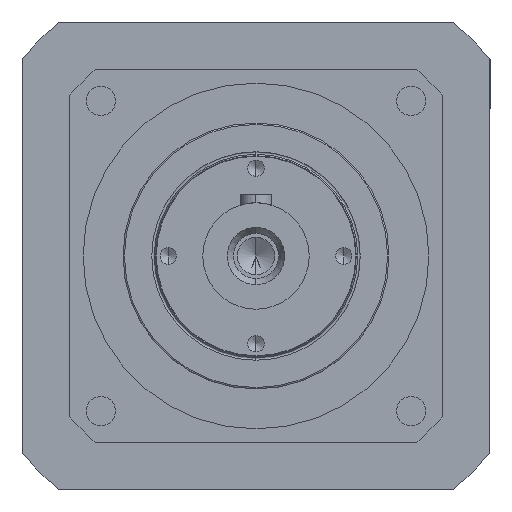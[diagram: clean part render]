
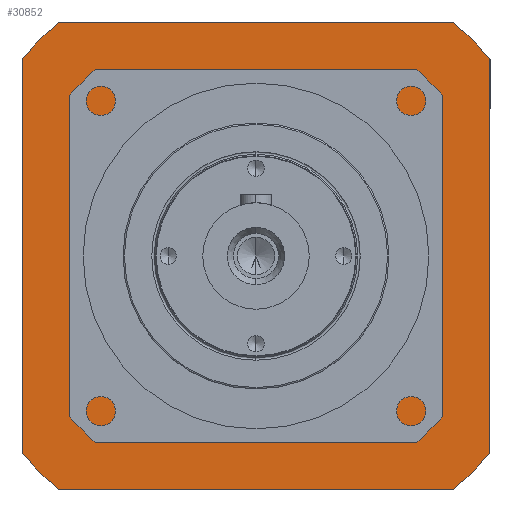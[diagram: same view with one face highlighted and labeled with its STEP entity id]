
A CAD part, left-side view. The second image highlights one B-rep face of the part: STEP entity #30852.
In plain terms, the highlighted planar face has unit normal (-1, 0, 0) as drawn and (0, 0, 1) by its records, which use the part's own axes.
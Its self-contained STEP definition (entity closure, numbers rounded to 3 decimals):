
#796 = EDGE_CURVE ( 'NONE', #4495, #8482, #36840, .T. ) ;
#1240 = CARTESIAN_POINT ( 'NONE',  ( -88., -74.034, 0. ) ) ;
#1440 = EDGE_CURVE ( 'NONE', #17463, #4495, #30435, .T. ) ;
#1542 = CARTESIAN_POINT ( 'NONE',  ( -88., 88., 0. ) ) ;
#1669 = DIRECTION ( 'NONE',  ( 1., 0., 0. ) ) ;
#1711 = DIRECTION ( 'NONE',  ( 1., 0., 0. ) ) ;
#2306 = AXIS2_PLACEMENT_3D ( 'NONE', #9361, #9408, #9414 ) ;
#2351 = ORIENTED_EDGE ( 'NONE', *, *, #35410, .F. ) ;
#2588 = FACE_OUTER_BOUND ( 'NONE', #27243, .T. ) ;
#2913 = ORIENTED_EDGE ( 'NONE', *, *, #33726, .F. ) ;
#4054 = AXIS2_PLACEMENT_3D ( 'NONE', #10859, #31132, #13726 ) ;
#4192 = CARTESIAN_POINT ( 'NONE',  ( -74.034, -88., 0. ) ) ;
#4483 = VERTEX_POINT ( 'NONE', #18195 ) ;
#4495 = VERTEX_POINT ( 'NONE', #17652 ) ;
#4687 = ORIENTED_EDGE ( 'NONE', *, *, #31452, .F. ) ;
#4786 = CARTESIAN_POINT ( 'NONE',  ( 62.5, 0., 0. ) ) ;
#5482 = CARTESIAN_POINT ( 'NONE',  ( 0., 62.5, 0. ) ) ;
#5804 = ORIENTED_EDGE ( 'NONE', *, *, #796, .F. ) ;
#6025 = ORIENTED_EDGE ( 'NONE', *, *, #30746, .F. ) ;
#6362 = VERTEX_POINT ( 'NONE', #7785 ) ;
#7163 = EDGE_CURVE ( 'NONE', #30533, #35933, #32029, .T. ) ;
#7785 = CARTESIAN_POINT ( 'NONE',  ( -74.034, 88., 0. ) ) ;
#7992 = LINE ( 'NONE', #28376, #29432 ) ;
#8467 = DIRECTION ( 'NONE',  ( 0., 0., -1. ) ) ;
#8482 = VERTEX_POINT ( 'NONE', #29095 ) ;
#8542 = AXIS2_PLACEMENT_3D ( 'NONE', #30752, #13348, #33590 ) ;
#9361 = CARTESIAN_POINT ( 'NONE',  ( 0., 0., 0. ) ) ;
#9371 = LINE ( 'NONE', #34863, #24955 ) ;
#9407 = FACE_BOUND ( 'NONE', #32652, .T. ) ;
#9408 = DIRECTION ( 'NONE',  ( 0., 0., -1. ) ) ;
#9414 = DIRECTION ( 'NONE',  ( 1., 0., 0. ) ) ;
#10859 = CARTESIAN_POINT ( 'NONE',  ( 0., 0., 0. ) ) ;
#11998 = VECTOR ( 'NONE', #1669, 1000. ) ;
#12343 = CARTESIAN_POINT ( 'NONE',  ( 0., 0., 0. ) ) ;
#12899 = LINE ( 'NONE', #1542, #11998 ) ;
#12945 = AXIS2_PLACEMENT_3D ( 'NONE', #33999, #33955, #33907 ) ;
#13348 = DIRECTION ( 'NONE',  ( 0., 0., -1. ) ) ;
#13726 = DIRECTION ( 'NONE',  ( 1., 0., 0. ) ) ;
#13878 = AXIS2_PLACEMENT_3D ( 'NONE', #5482, #8467, #28907 ) ;
#15195 = DIRECTION ( 'NONE',  ( 1., 0., 0. ) ) ;
#17289 = ORIENTED_EDGE ( 'NONE', *, *, #7163, .F. ) ;
#17463 = VERTEX_POINT ( 'NONE', #19614 ) ;
#17623 = DIRECTION ( 'NONE',  ( 0., 1., 0. ) ) ;
#17652 = CARTESIAN_POINT ( 'NONE',  ( 88., 74.034, 0. ) ) ;
#18195 = CARTESIAN_POINT ( 'NONE',  ( 74.034, -88., 0. ) ) ;
#19059 = CIRCLE ( 'NONE', #24194, 62.5 ) ;
#19122 = DIRECTION ( 'NONE',  ( 0., 0., 1. ) ) ;
#19397 = ORIENTED_EDGE ( 'NONE', *, *, #28653, .F. ) ;
#19532 = DIRECTION ( 'NONE',  ( -1., 0., 0. ) ) ;
#19614 = CARTESIAN_POINT ( 'NONE',  ( 74.034, 88., 0. ) ) ;
#21605 = ORIENTED_EDGE ( 'NONE', *, *, #1440, .F. ) ;
#21864 = CARTESIAN_POINT ( 'NONE',  ( 88., 88., 0. ) ) ;
#22043 = CARTESIAN_POINT ( 'NONE',  ( -88., 74.034, 0. ) ) ;
#22638 = DIRECTION ( 'NONE',  ( 0., -1., 0. ) ) ;
#23079 = VERTEX_POINT ( 'NONE', #22043 ) ;
#23080 = PLANE ( 'NONE',  #13878 ) ;
#24079 = VERTEX_POINT ( 'NONE', #4192 ) ;
#24194 = AXIS2_PLACEMENT_3D ( 'NONE', #36205, #19122, #1711 ) ;
#24510 = CARTESIAN_POINT ( 'NONE',  ( -62.5, 0., 0. ) ) ;
#24955 = VECTOR ( 'NONE', #17623, 1000. ) ;
#27243 = EDGE_LOOP ( 'NONE', ( #19397, #6025, #4687, #32686, #2351, #36511, #5804, #21605 ) ) ;
#27629 = AXIS2_PLACEMENT_3D ( 'NONE', #12343, #32606, #15195 ) ;
#28376 = CARTESIAN_POINT ( 'NONE',  ( -88., -88., 0. ) ) ;
#28653 = EDGE_CURVE ( 'NONE', #6362, #17463, #12899, .T. ) ;
#28907 = DIRECTION ( 'NONE',  ( -1., 0., 0. ) ) ;
#28963 = CIRCLE ( 'NONE', #8542, 115. ) ;
#29095 = CARTESIAN_POINT ( 'NONE',  ( 88., -74.034, 0. ) ) ;
#29346 = CIRCLE ( 'NONE', #27629, 115. ) ;
#29432 = VECTOR ( 'NONE', #19532, 1000. ) ;
#30435 = CIRCLE ( 'NONE', #2306, 115. ) ;
#30533 = VERTEX_POINT ( 'NONE', #24510 ) ;
#30746 = EDGE_CURVE ( 'NONE', #23079, #6362, #34357, .T. ) ;
#30752 = CARTESIAN_POINT ( 'NONE',  ( 0., 0., 0. ) ) ;
#30852 = ADVANCED_FACE ( 'NONE', ( #9407, #2588 ), #23080, .F. ) ;
#31132 = DIRECTION ( 'NONE',  ( 0., 0., -1. ) ) ;
#31452 = EDGE_CURVE ( 'NONE', #36527, #23079, #9371, .T. ) ;
#32029 = CIRCLE ( 'NONE', #12945, 62.5 ) ;
#32606 = DIRECTION ( 'NONE',  ( 0., 0., -1. ) ) ;
#32652 = EDGE_LOOP ( 'NONE', ( #2913, #17289 ) ) ;
#32686 = ORIENTED_EDGE ( 'NONE', *, *, #33059, .F. ) ;
#33059 = EDGE_CURVE ( 'NONE', #24079, #36527, #29346, .T. ) ;
#33590 = DIRECTION ( 'NONE',  ( 1., 0., 0. ) ) ;
#33726 = EDGE_CURVE ( 'NONE', #35933, #30533, #19059, .T. ) ;
#33907 = DIRECTION ( 'NONE',  ( 1., 0., 0. ) ) ;
#33955 = DIRECTION ( 'NONE',  ( 0., 0., 1. ) ) ;
#33999 = CARTESIAN_POINT ( 'NONE',  ( 0., 0., 0. ) ) ;
#34357 = CIRCLE ( 'NONE', #4054, 115. ) ;
#34863 = CARTESIAN_POINT ( 'NONE',  ( -88., 88., 0. ) ) ;
#35410 = EDGE_CURVE ( 'NONE', #4483, #24079, #7992, .T. ) ;
#35933 = VERTEX_POINT ( 'NONE', #4786 ) ;
#36205 = CARTESIAN_POINT ( 'NONE',  ( 0., 0., 0. ) ) ;
#36246 = EDGE_CURVE ( 'NONE', #8482, #4483, #28963, .T. ) ;
#36511 = ORIENTED_EDGE ( 'NONE', *, *, #36246, .F. ) ;
#36523 = VECTOR ( 'NONE', #22638, 1000. ) ;
#36527 = VERTEX_POINT ( 'NONE', #1240 ) ;
#36840 = LINE ( 'NONE', #21864, #36523 ) ;
